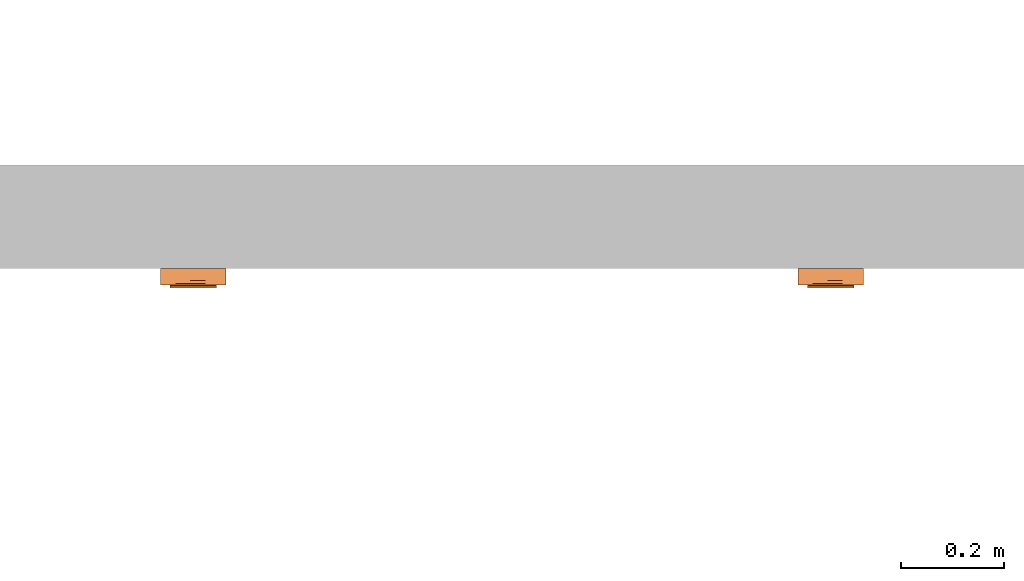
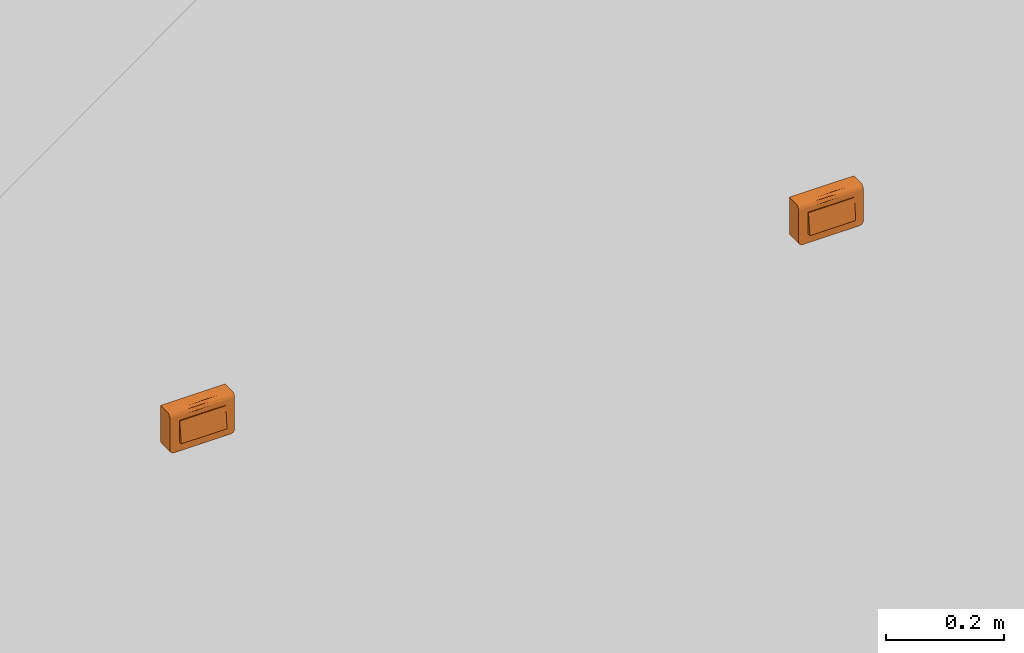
# One storey, part 141 of 197: 2 proxies.
"""IFC2X3 building model written with IfcOpenShell, lengths in metres."""

from ifc_helpers import new_model, entity, si_unit, converted_unit, direction, frame, origin, place, context, subcontext, project, spatial, faceted_brep, source, transform, mapped, material, material_list, type_object, type_shapes, element, save


model = new_model("IFC2X3")

# Units and contexts
model_context = context("Model", 3, precision=1e-05, world=origin(), true_north=direction((6.123031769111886e-17, 1.0)))
body_context = subcontext(model_context, "Body", "Model", "MODEL_VIEW")
ifc_project = project(units=[si_unit("LENGTHUNIT", "METRE"), converted_unit("PLANEANGLEUNIT", "DEGREE", entity("IfcPlaneAngleMeasure", 0.017453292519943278), si_unit("PLANEANGLEUNIT", "RADIAN"), dimensions=[0, 0, 0, 0, 0, 0, 0]), si_unit("AREAUNIT", "SQUARE_METRE")], contexts=[model_context])

# Site, building, storey
site_placement = place(None, origin())
site = spatial("IfcSite", under=ifc_project, at=site_placement, Name="Default", CompositionType="ELEMENT")
building_placement = place(site_placement, origin())
building = spatial("IfcBuilding", under=site, at=building_placement, CompositionType="ELEMENT")
storey_placement = place(building_placement, origin())
storey = spatial("IfcBuildingStorey", under=building, at=storey_placement, Name="Niveau 0", CompositionType="ELEMENT", Elevation=0.0)

# Proxies
ifc_material_1 = material(Name="BETCE-DOIGT-BLANC")
ifc_material_2 = material(Name="BETCE-CADRE-BLANC")
ifc_material_3 = material(Name="BETCE-ENJOLIVEUR-BLANC")
ifc_material_list = material_list([ifc_material_1, ifc_material_2, ifc_material_3])
building_element_proxy_type_1 = type_object("IfcBuildingElementProxyType", Name="Tableau commande 1x4 modules saillie:3 SA + 1 BP", PredefinedType="NOTDEFINED", material=ifc_material_list)
shared_shape_1 = source(origin(), body_context, "Body", "Brep", [
    faceted_brep([(-0.04499999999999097, -0.03350000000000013, 0.022499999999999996), (-0.04499999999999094, -0.038000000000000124, -0.022500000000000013), (-0.022500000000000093, -0.03799999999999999, -0.02249999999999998), (-0.02250000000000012, -0.0335, 0.022499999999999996), (-0.04499999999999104, -0.02299999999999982, -0.022500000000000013), (-0.04499999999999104, -0.02299999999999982, 0.022499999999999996), (-0.022500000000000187, -0.022999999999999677, 0.022499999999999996), (-0.022500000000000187, -0.022999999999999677, -0.022500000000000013)], [[[0, 1, 2, 3]], [[4, 5, 6, 7]], [[5, 4, 1, 0]], [[6, 5, 0, 3]], [[7, 6, 3, 2]], [[4, 7, 2, 1]]]),
    faceted_brep([(0.02250000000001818, -0.03349999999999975, 0.022499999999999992), (0.02250000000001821, -0.03799999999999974, -0.022500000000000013), (0.04500000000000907, -0.03799999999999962, -0.02250000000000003), (0.04500000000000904, -0.03349999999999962, 0.022499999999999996), (0.022500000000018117, -0.02299999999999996, -0.022500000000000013), (0.022500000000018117, -0.02299999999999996, 0.022499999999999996), (0.04500000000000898, -0.022999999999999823, 0.022499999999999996), (0.04500000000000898, -0.022999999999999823, -0.022500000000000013)], [[[0, 1, 2, 3]], [[4, 5, 6, 7]], [[5, 4, 1, 0]], [[6, 5, 0, 3]], [[7, 6, 3, 2]], [[4, 7, 2, 1]]]),
    faceted_brep([(0.0, -0.03349999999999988, 0.022499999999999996), (0.0, -0.03799999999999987, -0.022500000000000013), (0.022499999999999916, -0.03799999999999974, -0.022500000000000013), (0.022499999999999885, -0.03349999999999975, 0.022499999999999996), (0.0, -0.02299999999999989, -0.022500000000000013), (0.0, -0.02299999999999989, 0.022499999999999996), (0.022499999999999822, -0.02299999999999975, 0.022499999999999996), (0.022499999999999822, -0.02299999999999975, -0.022500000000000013)], [[[0, 1, 2, 3]], [[4, 5, 6, 7]], [[5, 4, 1, 0]], [[6, 5, 0, 3]], [[7, 6, 3, 2]], [[4, 7, 2, 1]]]),
    faceted_brep([(0.05550000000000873, -0.02299999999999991, -0.041000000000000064), (0.05757055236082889, -0.0229999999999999, -0.04072740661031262), (0.05950000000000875, -0.022999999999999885, -0.03992820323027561), (0.06115685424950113, -0.022999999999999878, -0.03865685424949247), (0.06242820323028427, -0.022999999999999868, -0.03700000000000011), (0.06322740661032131, -0.022999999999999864, -0.03507055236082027), (0.063500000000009, -0.02299999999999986, -0.033000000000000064), (0.06350000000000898, -0.02299999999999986, 0.04092306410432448), (-0.06349999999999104, -0.023000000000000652, 0.04092306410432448), (-0.06349999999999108, -0.023000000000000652, -0.032999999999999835), (-0.06322740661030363, -0.023000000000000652, -0.03507055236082), (-0.06242820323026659, -0.02300000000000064, -0.03699999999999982), (-0.06115685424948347, -0.023000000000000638, -0.0386568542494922), (-0.05949999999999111, -0.023000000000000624, -0.03992820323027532), (-0.05757055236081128, -0.023000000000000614, -0.040727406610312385), (-0.05549999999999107, -0.0230000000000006, -0.040999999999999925), (-0.05549999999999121, 0.0, -0.04099999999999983), (-0.05757055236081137, 0.0, -0.040727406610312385), (-0.05949999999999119, 0.0, -0.03992820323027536), (-0.061156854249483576, 0.0, -0.03865685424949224), (-0.06242820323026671, 0.0, -0.03699999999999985), (-0.06322740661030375, 0.0, -0.03507055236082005), (-0.06349999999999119, 0.0, -0.032999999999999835), (-0.06349999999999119, 0.0, 0.04092306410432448), (0.06350000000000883, 0.0, 0.04092306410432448), (0.06350000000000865, 0.0, -0.033), (0.0632274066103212, 0.0, -0.03507055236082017), (0.062428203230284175, 0.0, -0.037000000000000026), (0.06115685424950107, 0.0, -0.0386568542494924), (0.059500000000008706, 0.0, -0.039928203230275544), (0.05757055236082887, 0.0, -0.040727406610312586), (0.055500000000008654, 0.0, -0.040999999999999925)], [[[0, 1, 2, 3, 4, 5, 6, 7, 8, 9, 10, 11, 12, 13, 14, 15]], [[16, 17, 18, 19, 20, 21, 22, 23, 24, 25, 26, 27, 28, 29, 30, 31]], [[9, 8, 23, 22]], [[0, 15, 16, 31]], [[7, 6, 25, 24]], [[8, 7, 24, 23]], [[25, 6, 5, 26]], [[26, 5, 4, 27]], [[27, 4, 3, 28]], [[29, 2, 1, 30]], [[30, 1, 0, 31]], [[28, 3, 2, 29]], [[17, 16, 15, 14]], [[18, 17, 14, 13]], [[19, 18, 13, 12]], [[20, 19, 12, 11]], [[21, 20, 11, 10]], [[22, 21, 10, 9]]]),
    faceted_brep([(-0.022500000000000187, -0.02299999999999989, -0.022500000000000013), (-0.022500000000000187, -0.02299999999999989, 0.022499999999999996), (0.0, -0.02299999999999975, 0.022499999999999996), (0.0, -0.02299999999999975, -0.022500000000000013), (-0.022500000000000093, -0.03799999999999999, -0.0225), (-0.02250000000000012, -0.0335, 0.022499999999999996), (0.0, -0.03349999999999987, 0.022499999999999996), (0.0, -0.037999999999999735, -0.022500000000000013)], [[[0, 1, 2, 3]], [[1, 0, 4, 5]], [[2, 1, 5, 6]], [[3, 2, 6, 7]], [[0, 3, 7, 4]], [[5, 4, 7, 6]]]),
    faceted_brep([(0.06350000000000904, -0.031999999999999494, -0.03299999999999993), (0.06350000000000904, -0.031999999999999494, 0.0319999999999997), (0.04500000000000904, -0.031999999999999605, -0.022500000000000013), (0.05550000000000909, -0.03199999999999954, -0.040999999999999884), (0.05757055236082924, -0.03199999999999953, -0.040727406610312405), (0.05950000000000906, -0.03199999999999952, -0.039928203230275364), (0.06115685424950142, -0.03199999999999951, -0.038656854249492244), (0.06322740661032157, -0.031999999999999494, -0.03507055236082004), (0.04500000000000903, -0.031999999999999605, 0.022499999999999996), (-0.04499999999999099, -0.03200000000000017, 0.022499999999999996), (-0.011124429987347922, -0.032000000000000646, 0.031999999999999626), (-0.06349999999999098, -0.032000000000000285, 0.0319999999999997), (-0.04499999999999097, -0.03200000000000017, -0.022500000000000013), (-0.06349999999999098, -0.032000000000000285, -0.032999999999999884), (-0.05549999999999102, -0.03200000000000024, -0.040999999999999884), (-0.057570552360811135, -0.032000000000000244, -0.04072740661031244), (-0.05949999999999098, -0.03200000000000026, -0.0399282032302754), (-0.061156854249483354, -0.032000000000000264, -0.03865685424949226), (-0.06322740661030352, -0.03200000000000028, -0.03507055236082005), (-0.06242820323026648, -0.03200000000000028, -0.03699999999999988), (0.06242820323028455, -0.0319999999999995, -0.03699999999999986), (-0.06349999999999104, -0.023000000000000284, -0.032999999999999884), (-0.06349999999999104, -0.023000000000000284, 0.041000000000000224), (-0.04499999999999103, -0.023000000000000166, 0.022499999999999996), (-0.04499999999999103, -0.023000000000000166, -0.022500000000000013), (-0.05549999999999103, -0.023000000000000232, -0.040999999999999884), (-0.0575705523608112, -0.023000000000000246, -0.04072740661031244), (-0.059499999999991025, -0.023000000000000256, -0.0399282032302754), (-0.06322740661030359, -0.02300000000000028, -0.03507055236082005), (0.04500000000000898, -0.022999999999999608, 0.022499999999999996), (0.011124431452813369, -0.02299999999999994, 0.041000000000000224), (0.06350000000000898, -0.022999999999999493, 0.041000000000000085), (0.06350000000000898, -0.022999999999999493, -0.032999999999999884), (0.04500000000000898, -0.022999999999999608, -0.022500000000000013), (0.055500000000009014, -0.02299999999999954, -0.040999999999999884), (0.05757055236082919, -0.02299999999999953, -0.040727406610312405), (0.059500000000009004, -0.022999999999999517, -0.039928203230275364), (0.06322740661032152, -0.022999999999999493, -0.03507055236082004), (0.061156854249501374, -0.022999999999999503, -0.038656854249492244), (0.06242820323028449, -0.022999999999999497, -0.03699999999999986), (-0.0611568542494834, -0.023000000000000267, -0.03865685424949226), (-0.062428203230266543, -0.023000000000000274, -0.03699999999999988), (0.063500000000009, -0.02532937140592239, 0.04069333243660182), (0.06350000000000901, -0.027499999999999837, 0.039794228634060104), (0.06350000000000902, -0.029363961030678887, 0.03836396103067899), (0.06350000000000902, -0.030794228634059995, 0.03649999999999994), (0.06350000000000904, -0.03169333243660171, 0.03432937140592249), (-0.06349999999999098, -0.03169333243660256, 0.034329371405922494), (-0.063499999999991, -0.030794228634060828, 0.03649999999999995), (-0.063499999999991, -0.029363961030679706, 0.03836396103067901), (-0.06349999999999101, -0.027500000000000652, 0.039794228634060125), (-0.06349999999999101, -0.025329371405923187, 0.04069333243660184), (-0.010857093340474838, -0.02912089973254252, 0.03859807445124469)], [[[0, 1, 2]], [[3, 0, 2]], [[0, 3, 4]], [[0, 4, 5]], [[5, 6, 0]], [[7, 0, 6]], [[2, 1, 8]], [[1, 9, 8]], [[9, 1, 10]], [[9, 10, 11]], [[12, 9, 11]], [[13, 12, 11]], [[14, 12, 13]], [[14, 13, 15]], [[16, 15, 13]], [[13, 17, 16]], [[17, 13, 18]], [[17, 18, 19]], [[12, 14, 3]], [[2, 12, 3]], [[20, 7, 6]], [[21, 22, 23]], [[24, 21, 23]], [[25, 21, 24]], [[21, 25, 26]], [[21, 26, 27]], [[28, 21, 27]], [[22, 29, 23]], [[29, 22, 30]], [[29, 30, 31]], [[32, 29, 31]], [[33, 29, 32]], [[34, 33, 32]], [[34, 32, 35]], [[36, 35, 32]], [[36, 32, 37]], [[37, 38, 36]], [[38, 37, 39]], [[33, 34, 25]], [[24, 33, 25]], [[27, 40, 28]], [[41, 28, 40]], [[1, 0, 32, 31, 42, 43, 44, 45, 46]], [[37, 32, 0, 7]], [[39, 37, 7, 20]], [[38, 39, 20, 6]], [[36, 38, 6, 5]], [[35, 36, 5, 4]], [[34, 35, 4, 3]], [[25, 34, 3, 14]], [[26, 25, 14, 15]], [[27, 26, 15, 16]], [[40, 27, 16, 17]], [[41, 40, 17, 19]], [[28, 41, 19, 18]], [[21, 28, 18, 13]], [[22, 21, 13, 11, 47, 48, 49, 50, 51]], [[52, 10, 45]], [[47, 11, 10]], [[1, 46, 10]], [[44, 52, 45]], [[46, 45, 10]], [[50, 52, 51]], [[48, 47, 10]], [[30, 52, 43]], [[48, 52, 49]], [[42, 31, 30]], [[30, 22, 51]], [[48, 10, 52]], [[30, 43, 42]], [[44, 43, 52]], [[52, 50, 49]], [[52, 30, 51]], [[24, 23, 9, 12]], [[33, 24, 12, 2]], [[29, 33, 2, 8]], [[23, 29, 8, 9]]]),
])
type_shapes(building_element_proxy_type_1, [shared_shape_1])
proxy_1_placement = place(storey_placement, frame((-372.21277966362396, 116.01635778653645, 1.1)))
element("IfcBuildingElementProxy", 1, at=proxy_1_placement, inside=storey, type_object=building_element_proxy_type_1, material=ifc_material_list, Name="Tableau commande 1x4 modules saillie:3 SA + 1 BP", ObjectType="Tableau commande 1x4 modules saillie:3 SA + 1 BP", context=body_context, shape_type="MappedRepresentation", body=[
    mapped(shared_shape_1, transform((0.0, 0.0, 0.0), scale=1.0)),
])
building_element_proxy_type_2 = type_object("IfcBuildingElementProxyType", Name="Tableau commande 1x4 modules saillie:3 VV + 1 BP", PredefinedType="NOTDEFINED", material=ifc_material_list)
shared_shape_2 = source(origin(), body_context, "Body", "Brep", [
    faceted_brep([(-0.04499999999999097, -0.03350000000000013, 0.022499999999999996), (-0.04499999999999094, -0.038000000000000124, -0.022500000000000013), (-0.022500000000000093, -0.03799999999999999, -0.02249999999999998), (-0.02250000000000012, -0.0335, 0.022499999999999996), (-0.04499999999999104, -0.02299999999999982, -0.022500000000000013), (-0.04499999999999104, -0.02299999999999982, 0.022499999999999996), (-0.022500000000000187, -0.022999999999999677, 0.022499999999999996), (-0.022500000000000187, -0.022999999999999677, -0.022500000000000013)], [[[0, 1, 2, 3]], [[4, 5, 6, 7]], [[5, 4, 1, 0]], [[6, 5, 0, 3]], [[7, 6, 3, 2]], [[4, 7, 2, 1]]]),
    faceted_brep([(0.02250000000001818, -0.03349999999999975, 0.022499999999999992), (0.02250000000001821, -0.03799999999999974, -0.022500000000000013), (0.04500000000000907, -0.03799999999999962, -0.02250000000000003), (0.04500000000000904, -0.03349999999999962, 0.022499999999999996), (0.022500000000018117, -0.02299999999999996, -0.022500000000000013), (0.022500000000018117, -0.02299999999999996, 0.022499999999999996), (0.04500000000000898, -0.022999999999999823, 0.022499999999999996), (0.04500000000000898, -0.022999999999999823, -0.022500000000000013)], [[[0, 1, 2, 3]], [[4, 5, 6, 7]], [[5, 4, 1, 0]], [[6, 5, 0, 3]], [[7, 6, 3, 2]], [[4, 7, 2, 1]]]),
    faceted_brep([(0.0, -0.03349999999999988, 0.022499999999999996), (0.0, -0.03799999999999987, -0.022500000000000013), (0.022499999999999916, -0.03799999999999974, -0.022500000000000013), (0.022499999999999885, -0.03349999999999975, 0.022499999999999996), (0.0, -0.02299999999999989, -0.022500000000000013), (0.0, -0.02299999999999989, 0.022499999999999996), (0.022499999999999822, -0.02299999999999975, 0.022499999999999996), (0.022499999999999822, -0.02299999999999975, -0.022500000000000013)], [[[0, 1, 2, 3]], [[4, 5, 6, 7]], [[5, 4, 1, 0]], [[6, 5, 0, 3]], [[7, 6, 3, 2]], [[4, 7, 2, 1]]]),
    faceted_brep([(0.05550000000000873, -0.02299999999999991, -0.041000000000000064), (0.05757055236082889, -0.0229999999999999, -0.04072740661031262), (0.05950000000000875, -0.022999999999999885, -0.03992820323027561), (0.06115685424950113, -0.022999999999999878, -0.03865685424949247), (0.06242820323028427, -0.022999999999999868, -0.03700000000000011), (0.06322740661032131, -0.022999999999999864, -0.03507055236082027), (0.063500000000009, -0.02299999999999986, -0.033000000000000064), (0.06350000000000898, -0.02299999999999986, 0.04092306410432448), (-0.06349999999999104, -0.023000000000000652, 0.04092306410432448), (-0.06349999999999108, -0.023000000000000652, -0.032999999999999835), (-0.06322740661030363, -0.023000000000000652, -0.03507055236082), (-0.06242820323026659, -0.02300000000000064, -0.03699999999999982), (-0.06115685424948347, -0.023000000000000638, -0.0386568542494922), (-0.05949999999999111, -0.023000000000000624, -0.03992820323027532), (-0.05757055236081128, -0.023000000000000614, -0.040727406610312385), (-0.05549999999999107, -0.0230000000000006, -0.040999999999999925), (-0.05549999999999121, 0.0, -0.04099999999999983), (-0.05757055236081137, 0.0, -0.040727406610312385), (-0.05949999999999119, 0.0, -0.03992820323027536), (-0.061156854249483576, 0.0, -0.03865685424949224), (-0.06242820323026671, 0.0, -0.03699999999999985), (-0.06322740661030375, 0.0, -0.03507055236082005), (-0.06349999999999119, 0.0, -0.032999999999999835), (-0.06349999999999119, 0.0, 0.04092306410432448), (0.06350000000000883, 0.0, 0.04092306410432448), (0.06350000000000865, 0.0, -0.033), (0.0632274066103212, 0.0, -0.03507055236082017), (0.062428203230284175, 0.0, -0.037000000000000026), (0.06115685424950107, 0.0, -0.0386568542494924), (0.059500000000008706, 0.0, -0.039928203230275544), (0.05757055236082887, 0.0, -0.040727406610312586), (0.055500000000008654, 0.0, -0.040999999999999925)], [[[0, 1, 2, 3, 4, 5, 6, 7, 8, 9, 10, 11, 12, 13, 14, 15]], [[16, 17, 18, 19, 20, 21, 22, 23, 24, 25, 26, 27, 28, 29, 30, 31]], [[9, 8, 23, 22]], [[0, 15, 16, 31]], [[7, 6, 25, 24]], [[8, 7, 24, 23]], [[25, 6, 5, 26]], [[26, 5, 4, 27]], [[27, 4, 3, 28]], [[29, 2, 1, 30]], [[30, 1, 0, 31]], [[28, 3, 2, 29]], [[17, 16, 15, 14]], [[18, 17, 14, 13]], [[19, 18, 13, 12]], [[20, 19, 12, 11]], [[21, 20, 11, 10]], [[22, 21, 10, 9]]]),
    faceted_brep([(-0.022500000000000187, -0.02299999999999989, -0.022500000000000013), (-0.022500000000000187, -0.02299999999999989, 0.022499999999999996), (0.0, -0.02299999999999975, 0.022499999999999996), (0.0, -0.02299999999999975, -0.022500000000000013), (-0.022500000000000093, -0.03799999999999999, -0.0225), (-0.02250000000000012, -0.0335, 0.022499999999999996), (0.0, -0.03349999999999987, 0.022499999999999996), (0.0, -0.037999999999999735, -0.022500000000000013)], [[[0, 1, 2, 3]], [[1, 0, 4, 5]], [[2, 1, 5, 6]], [[3, 2, 6, 7]], [[0, 3, 7, 4]], [[5, 4, 7, 6]]]),
    faceted_brep([(0.06350000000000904, -0.031999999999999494, -0.03299999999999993), (0.06350000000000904, -0.031999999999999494, 0.0319999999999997), (0.04500000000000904, -0.031999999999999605, -0.022500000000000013), (0.05550000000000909, -0.03199999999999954, -0.040999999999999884), (0.05757055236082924, -0.03199999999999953, -0.040727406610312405), (0.05950000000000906, -0.03199999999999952, -0.039928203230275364), (0.06115685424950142, -0.03199999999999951, -0.038656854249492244), (0.06322740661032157, -0.031999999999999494, -0.03507055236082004), (0.04500000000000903, -0.031999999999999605, 0.022499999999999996), (-0.04499999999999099, -0.03200000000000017, 0.022499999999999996), (-0.011124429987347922, -0.032000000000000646, 0.031999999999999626), (-0.06349999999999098, -0.032000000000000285, 0.0319999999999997), (-0.04499999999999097, -0.03200000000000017, -0.022500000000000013), (-0.06349999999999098, -0.032000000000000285, -0.032999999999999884), (-0.05549999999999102, -0.03200000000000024, -0.040999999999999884), (-0.057570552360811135, -0.032000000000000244, -0.04072740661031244), (-0.05949999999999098, -0.03200000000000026, -0.0399282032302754), (-0.061156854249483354, -0.032000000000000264, -0.03865685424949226), (-0.06322740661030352, -0.03200000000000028, -0.03507055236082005), (-0.06242820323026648, -0.03200000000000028, -0.03699999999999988), (0.06242820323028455, -0.0319999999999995, -0.03699999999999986), (-0.06349999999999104, -0.023000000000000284, -0.032999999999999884), (-0.06349999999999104, -0.023000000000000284, 0.041000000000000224), (-0.04499999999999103, -0.023000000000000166, 0.022499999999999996), (-0.04499999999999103, -0.023000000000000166, -0.022500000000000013), (-0.05549999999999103, -0.023000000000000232, -0.040999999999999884), (-0.0575705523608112, -0.023000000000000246, -0.04072740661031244), (-0.059499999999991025, -0.023000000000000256, -0.0399282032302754), (-0.06322740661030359, -0.02300000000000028, -0.03507055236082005), (0.04500000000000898, -0.022999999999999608, 0.022499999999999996), (0.011124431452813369, -0.02299999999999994, 0.041000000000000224), (0.06350000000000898, -0.022999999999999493, 0.041000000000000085), (0.06350000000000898, -0.022999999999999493, -0.032999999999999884), (0.04500000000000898, -0.022999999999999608, -0.022500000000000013), (0.055500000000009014, -0.02299999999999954, -0.040999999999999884), (0.05757055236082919, -0.02299999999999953, -0.040727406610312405), (0.059500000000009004, -0.022999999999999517, -0.039928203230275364), (0.06322740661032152, -0.022999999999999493, -0.03507055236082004), (0.061156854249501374, -0.022999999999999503, -0.038656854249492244), (0.06242820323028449, -0.022999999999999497, -0.03699999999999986), (-0.0611568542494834, -0.023000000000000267, -0.03865685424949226), (-0.062428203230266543, -0.023000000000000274, -0.03699999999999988), (0.063500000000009, -0.02532937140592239, 0.04069333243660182), (0.06350000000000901, -0.027499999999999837, 0.039794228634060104), (0.06350000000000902, -0.029363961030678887, 0.03836396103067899), (0.06350000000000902, -0.030794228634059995, 0.03649999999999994), (0.06350000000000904, -0.03169333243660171, 0.03432937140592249), (-0.06349999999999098, -0.03169333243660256, 0.034329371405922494), (-0.063499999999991, -0.030794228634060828, 0.03649999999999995), (-0.063499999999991, -0.029363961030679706, 0.03836396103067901), (-0.06349999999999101, -0.027500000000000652, 0.039794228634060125), (-0.06349999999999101, -0.025329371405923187, 0.04069333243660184), (-0.010857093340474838, -0.02912089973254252, 0.03859807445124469)], [[[0, 1, 2]], [[3, 0, 2]], [[0, 3, 4]], [[0, 4, 5]], [[5, 6, 0]], [[7, 0, 6]], [[2, 1, 8]], [[1, 9, 8]], [[9, 1, 10]], [[9, 10, 11]], [[12, 9, 11]], [[13, 12, 11]], [[14, 12, 13]], [[14, 13, 15]], [[16, 15, 13]], [[13, 17, 16]], [[17, 13, 18]], [[17, 18, 19]], [[12, 14, 3]], [[2, 12, 3]], [[20, 7, 6]], [[21, 22, 23]], [[24, 21, 23]], [[25, 21, 24]], [[21, 25, 26]], [[21, 26, 27]], [[28, 21, 27]], [[22, 29, 23]], [[29, 22, 30]], [[29, 30, 31]], [[32, 29, 31]], [[33, 29, 32]], [[34, 33, 32]], [[34, 32, 35]], [[36, 35, 32]], [[36, 32, 37]], [[37, 38, 36]], [[38, 37, 39]], [[33, 34, 25]], [[24, 33, 25]], [[27, 40, 28]], [[41, 28, 40]], [[1, 0, 32, 31, 42, 43, 44, 45, 46]], [[37, 32, 0, 7]], [[39, 37, 7, 20]], [[38, 39, 20, 6]], [[36, 38, 6, 5]], [[35, 36, 5, 4]], [[34, 35, 4, 3]], [[25, 34, 3, 14]], [[26, 25, 14, 15]], [[27, 26, 15, 16]], [[40, 27, 16, 17]], [[41, 40, 17, 19]], [[28, 41, 19, 18]], [[21, 28, 18, 13]], [[22, 21, 13, 11, 47, 48, 49, 50, 51]], [[52, 10, 45]], [[47, 11, 10]], [[1, 46, 10]], [[44, 52, 45]], [[46, 45, 10]], [[50, 52, 51]], [[48, 47, 10]], [[30, 52, 43]], [[48, 52, 49]], [[42, 31, 30]], [[30, 22, 51]], [[48, 10, 52]], [[30, 43, 42]], [[44, 43, 52]], [[52, 50, 49]], [[52, 30, 51]], [[24, 23, 9, 12]], [[33, 24, 12, 2]], [[29, 33, 2, 8]], [[23, 29, 8, 9]]]),
])
type_shapes(building_element_proxy_type_2, [shared_shape_2])
proxy_2_placement = place(storey_placement, frame((-370.97977966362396, 116.01635778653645, 1.1)))
element("IfcBuildingElementProxy", 2, at=proxy_2_placement, inside=storey, type_object=building_element_proxy_type_2, material=ifc_material_list, Name="Tableau commande 1x4 modules saillie:3 VV + 1 BP", ObjectType="Tableau commande 1x4 modules saillie:3 VV + 1 BP", context=body_context, shape_type="MappedRepresentation", body=[
    mapped(shared_shape_2, transform((0.0, 0.0, 0.0), scale=1.0)),
])

save(model, "model.ifc")
